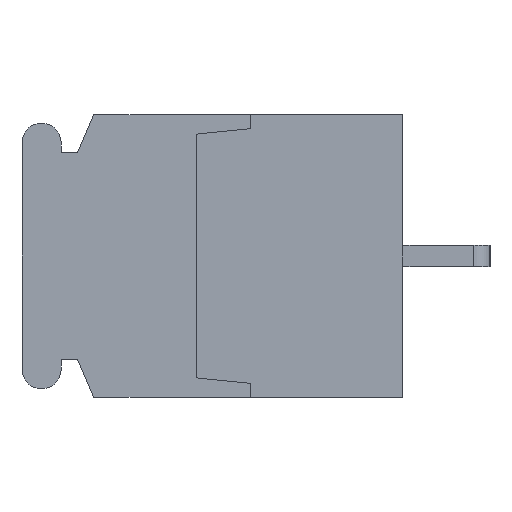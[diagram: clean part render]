
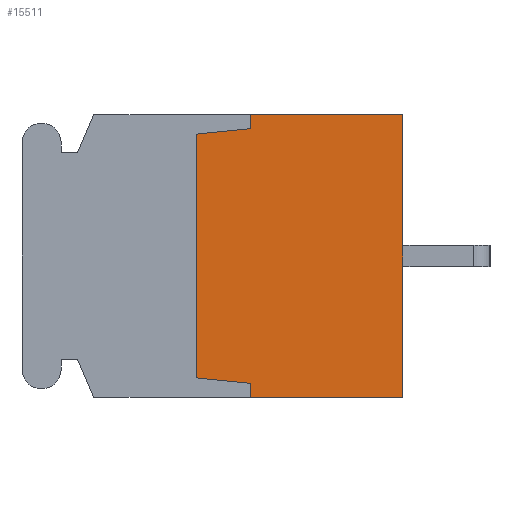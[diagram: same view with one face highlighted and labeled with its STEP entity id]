
A CAD part, left-side view. The second image highlights one B-rep face of the part: STEP entity #15511.
In plain terms, the highlighted planar face has unit normal (-1, 0, 0).
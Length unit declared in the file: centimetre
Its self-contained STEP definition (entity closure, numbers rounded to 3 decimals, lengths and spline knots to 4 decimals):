
#985=VERTEX_POINT('',#19909);
#988=VERTEX_POINT('',#19914);
#1018=VERTEX_POINT('',#19977);
#1068=VERTEX_POINT('',#20098);
#2120=VERTEX_POINT('',#24122);
#2121=VERTEX_POINT('',#24124);
#2122=VERTEX_POINT('',#24126);
#2123=VERTEX_POINT('',#24128);
#2523=VECTOR('',#16568,1.);
#2554=VECTOR('',#16600,1.);
#2614=VECTOR('',#16676,1.);
#3806=VECTOR('',#19116,1.);
#3807=VECTOR('',#19117,1.);
#3808=VECTOR('',#19118,1.);
#3809=VECTOR('',#19119,1.);
#3810=VECTOR('',#19120,1.);
#4273=LINE('',#19915,#2523);
#4304=LINE('',#19976,#2554);
#4364=LINE('',#20099,#2614);
#5556=LINE('',#24121,#3806);
#5557=LINE('',#24123,#3807);
#5558=LINE('',#24125,#3808);
#5559=LINE('',#24127,#3809);
#5560=LINE('',#24129,#3810);
#6064=EDGE_CURVE('',#988,#985,#4273,.T.);
#6095=EDGE_CURVE('',#985,#1018,#4304,.T.);
#6157=EDGE_CURVE('',#1068,#988,#4364,.T.);
#7774=EDGE_CURVE('',#2120,#1068,#5556,.T.);
#7775=EDGE_CURVE('',#2121,#2120,#5557,.T.);
#7776=EDGE_CURVE('',#2122,#2121,#5558,.T.);
#7777=EDGE_CURVE('',#2123,#2122,#5559,.T.);
#7778=EDGE_CURVE('',#1018,#2123,#5560,.T.);
#11910=ORIENTED_EDGE('',*,*,#6064,.F.);
#11911=ORIENTED_EDGE('',*,*,#6157,.F.);
#11912=ORIENTED_EDGE('',*,*,#7774,.F.);
#11913=ORIENTED_EDGE('',*,*,#7775,.F.);
#11914=ORIENTED_EDGE('',*,*,#7776,.F.);
#11915=ORIENTED_EDGE('',*,*,#7777,.F.);
#11916=ORIENTED_EDGE('',*,*,#7778,.F.);
#11917=ORIENTED_EDGE('',*,*,#6095,.F.);
#13667=EDGE_LOOP('',(#11910,#11911,#11912,#11913,#11914,#11915,#11916,#11917));
#14627=FACE_BOUND('',#13667,.T.);
#15511=ADVANCED_FACE('',(#14627),#16233,.F.);
#16233=PLANE('',#26553);
#16568=DIRECTION('',(0.,0.,-1.));
#16600=DIRECTION('',(0.,1.,0.));
#16676=DIRECTION('',(0.,-1.,0.));
#19115=DIRECTION('',(1.,0.,0.));
#19116=DIRECTION('',(0.,0.,1.));
#19117=DIRECTION('',(0.,-0.995,0.1));
#19118=DIRECTION('',(0.,0.,1.));
#19119=DIRECTION('',(0.,0.995,0.1));
#19120=DIRECTION('',(0.,0.,1.));
#19909=CARTESIAN_POINT('',(-1.07,0.,-0.65));
#19914=CARTESIAN_POINT('',(-1.07,0.,0.65));
#19915=CARTESIAN_POINT('',(-1.07,0.,0.65));
#19976=CARTESIAN_POINT('',(-1.07,0.,-0.65));
#19977=CARTESIAN_POINT('',(-1.07,0.7,-0.65));
#20098=CARTESIAN_POINT('',(-1.07,0.7,0.65));
#20099=CARTESIAN_POINT('',(-1.07,0.7,0.65));
#24120=CARTESIAN_POINT('',(-1.07,0.4626,0.));
#24121=CARTESIAN_POINT('',(-1.07,0.7,0.585));
#24122=CARTESIAN_POINT('',(-1.07,0.7,0.585));
#24123=CARTESIAN_POINT('',(-1.07,0.95,0.56));
#24124=CARTESIAN_POINT('',(-1.07,0.95,0.56));
#24125=CARTESIAN_POINT('',(-1.07,0.95,-0.56));
#24126=CARTESIAN_POINT('',(-1.07,0.95,-0.56));
#24127=CARTESIAN_POINT('',(-1.07,0.7,-0.585));
#24128=CARTESIAN_POINT('',(-1.07,0.7,-0.585));
#24129=CARTESIAN_POINT('',(-1.07,0.7,-0.65));
#26553=AXIS2_PLACEMENT_3D('',#24120,#19115,$);
